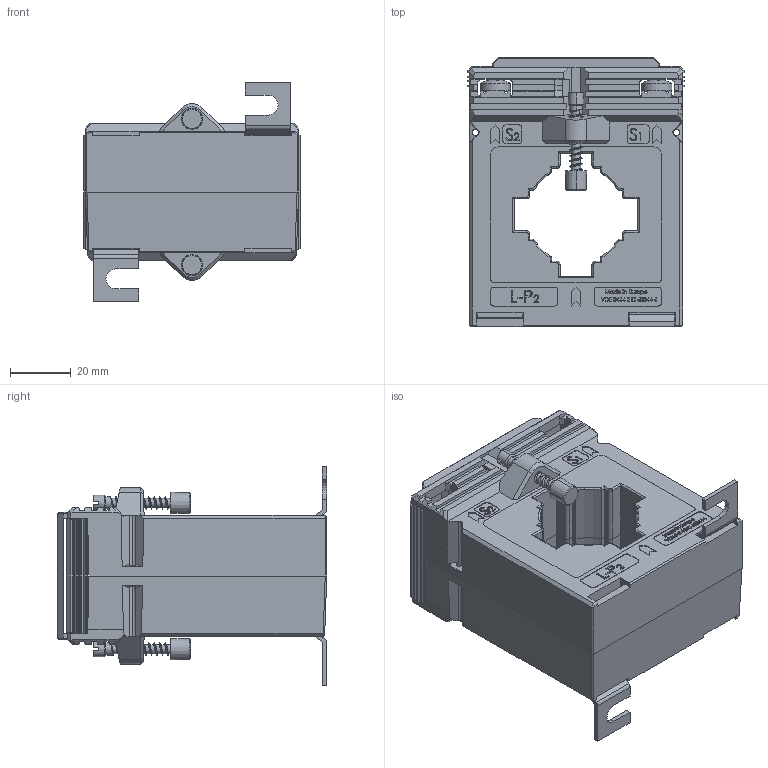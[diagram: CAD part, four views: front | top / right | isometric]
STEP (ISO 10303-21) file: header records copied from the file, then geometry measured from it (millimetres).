
FILE_DESCRIPTION (( 'STEP AP214' ), '1' );
FILE_NAME ('EASK41_4_2U_kpl.STEP', '2011-12-07T09:03:35', ( ' ' ), ( '' ), 'SwSTEP 2.0', 'SolidWorks 2010', '' );
FILE_SCHEMA (( 'AUTOMOTIVE_DESIGN' ));
Length unit declared in the file: millimetre
Products named in the file (10): EASK41_4_2U_kpl; ASK41_4_11; Verschlussklappe_38mm; Fusswinkel_1,5; Plastite_Schraube_30_mit-Gewinde; Isolierschutzkappe; Linsenschraube DIN 7985 4.8 VZ M 5 x 10; MBS_WN-003_04_Klemme_WN-003_02; Plombierplatte_F; ASK41_4_11_Gehäuseoberteil
Assembly tree (17 placements, depth 2):
  EASK41_4_2U_kpl
    Verschlussklappe_38mm  x2
    ASK41_4_11
    ASK41_4_11_Gehäuseoberteil
    Linsenschraube DIN 7985 4.8 VZ M 5 x 10  x4
    Fusswinkel_1,5  x2
    MBS_WN-003_04_Klemme_WN-003_02  x2
    Isolierschutzkappe  x2
    Plombierplatte_F
    Plastite_Schraube_30_mit-Gewinde  x2
Bounding box: 71 x 88.5 x 72 mm (x, y, z)
Volume: 189604.1 mm3; surface area: 59343.2 mm2
Topology: 17 solids, 17 shells, 2052 faces, 5318 edges, 3426 vertices
Faces by surface type: plane 1356, bspline 320, cylinder 250, cone 78, torus 32, sphere 16
Entity records: 74328 total; most frequent: CARTESIAN_POINT 32405, ORIENTED_EDGE 9328, DIRECTION 7137, EDGE_CURVE 4664, VECTOR 3515, LINE 3515, VERTEX_POINT 3036, EDGE_LOOP 1928
